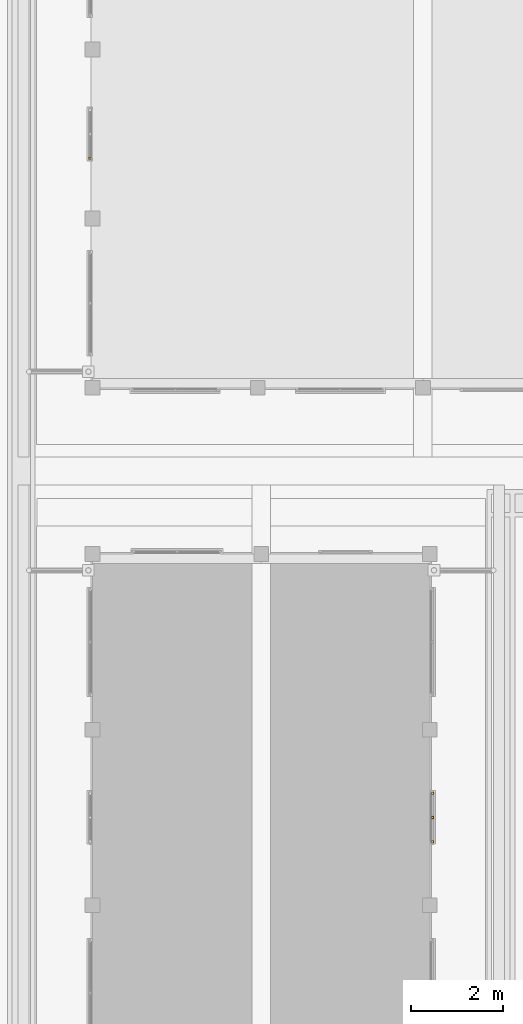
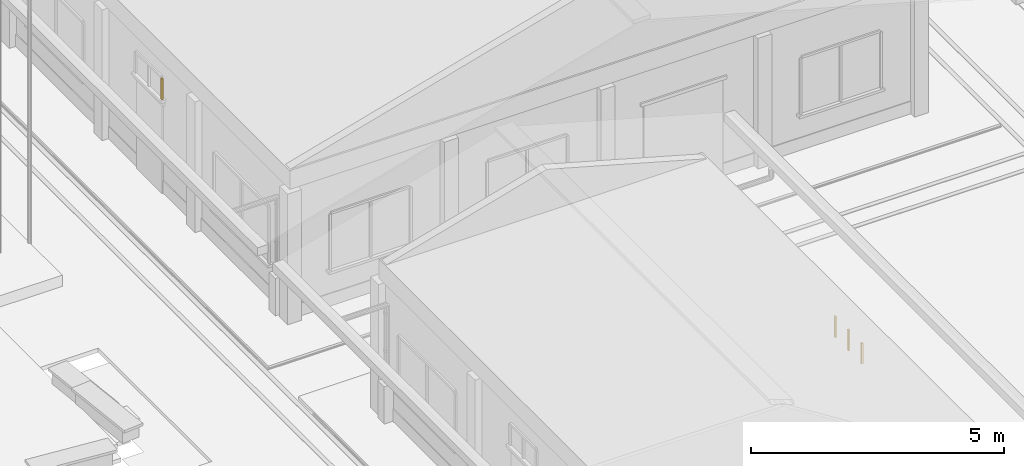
# One storey, part 81 of 177: 4 windows.
"""IFC4 building model written with IfcOpenShell, lengths in metres."""

from ifc_helpers import new_model, si_unit, origin, origin_with_axes, place, context, subcontext, project, spatial, triangles, element, save


model = new_model("IFC4")

# Units and contexts
model_context = context("Model", 3, precision=1e-05, world=origin_with_axes())
body_context = subcontext(model_context, "Body", "Model", "MODEL_VIEW")
ifc_project = project(units=[si_unit("LENGTHUNIT", "METRE"), si_unit("AREAUNIT", "SQUARE_METRE"), si_unit("VOLUMEUNIT", "CUBIC_METRE"), si_unit("PLANEANGLEUNIT", "RADIAN")], contexts=[model_context])

# Site, building, storey
site_placement = place(None, origin_with_axes())
site = spatial("IfcSite", under=ifc_project, at=site_placement, Name="Predio Los Mangos - Morales, San Martín", CompositionType="ELEMENT")
building_placement = place(site_placement, origin())
building = spatial("IfcBuilding", under=site, at=building_placement, Name="Hogar de Refugio Temporal", CompositionType="ELEMENT")
storey_placement = place(building_placement, origin())
storey = spatial("IfcBuildingStorey", under=building, at=storey_placement, Name="NIVEL 1 (NPT +0.00)", CompositionType="ELEMENT", Elevation=0.0)

# Windows
window_1_placement = place(storey_placement, origin())
element("IfcWindow", 1, at=window_1_placement, inside=storey, Name="E-02_vt1_m", ObjectType="Ventana", PredefinedType="WINDOW", context=body_context, shape_type="Tessellation", body=[
    triangles([(52.64, 48.05, 2.45), (52.68, 48.05, 2.45), (52.68, 48.1, 2.45), (52.64, 48.1, 2.45), (52.64, 48.05, 2.95), (52.68, 48.05, 2.95), (52.68, 48.1, 2.95), (52.64, 48.1, 2.95)], [[1, 4, 3], [1, 3, 2], [5, 6, 7], [5, 7, 8], [1, 2, 6], [1, 6, 5], [2, 3, 7], [2, 7, 6], [3, 4, 8], [3, 8, 7], [4, 1, 5], [4, 5, 8]]),
])
window_2_placement = place(storey_placement, origin())
element("IfcWindow", 2, at=window_2_placement, inside=storey, Name="E-02_vt1_m", ObjectType="Ventana", PredefinedType="WINDOW", context=body_context, shape_type="Tessellation", body=[
    triangles([(52.64, 49.1, 2.45), (52.68, 49.1, 2.45), (52.68, 49.15, 2.45), (52.64, 49.15, 2.45), (52.64, 49.1, 2.95), (52.68, 49.1, 2.95), (52.68, 49.15, 2.95), (52.64, 49.15, 2.95)], [[1, 4, 3], [1, 3, 2], [5, 6, 7], [5, 7, 8], [1, 2, 6], [1, 6, 5], [2, 3, 7], [2, 7, 6], [3, 4, 8], [3, 8, 7], [4, 1, 5], [4, 5, 8]]),
])
window_3_placement = place(storey_placement, origin())
element("IfcWindow", 3, at=window_3_placement, inside=storey, Name="E-02_vt1_m", ObjectType="Ventana", PredefinedType="WINDOW", context=body_context, shape_type="Tessellation", body=[
    triangles([(52.64, 48.575, 2.45), (52.68, 48.575, 2.45), (52.68, 48.625, 2.45), (52.64, 48.625, 2.45), (52.64, 48.575, 2.95), (52.68, 48.575, 2.95), (52.68, 48.625, 2.95), (52.64, 48.625, 2.95)], [[1, 4, 3], [1, 3, 2], [5, 6, 7], [5, 7, 8], [1, 2, 6], [1, 6, 5], [2, 3, 7], [2, 7, 6], [3, 4, 8], [3, 8, 7], [4, 1, 5], [4, 5, 8]]),
])
window_4_placement = place(storey_placement, origin())
element("IfcWindow", 4, at=window_4_placement, inside=storey, Name="E-05_vt1_m", ObjectType="Ventana", PredefinedType="WINDOW", context=body_context, shape_type="Tessellation", body=[
    triangles([(45.22, 62.8438, 2.45), (45.26, 62.8438, 2.45), (45.26, 62.8937, 2.45), (45.22, 62.8937, 2.45), (45.22, 62.8438, 2.95), (45.26, 62.8438, 2.95), (45.26, 62.8937, 2.95), (45.22, 62.8937, 2.95)], [[1, 4, 3], [1, 3, 2], [5, 6, 7], [5, 7, 8], [1, 2, 6], [1, 6, 5], [2, 3, 7], [2, 7, 6], [3, 4, 8], [3, 8, 7], [4, 1, 5], [4, 5, 8]]),
])

save(model, "model.ifc")
